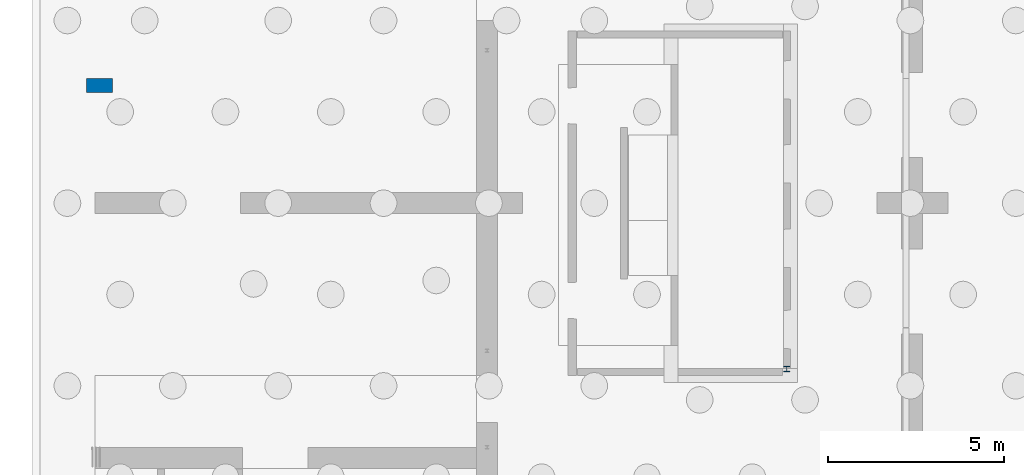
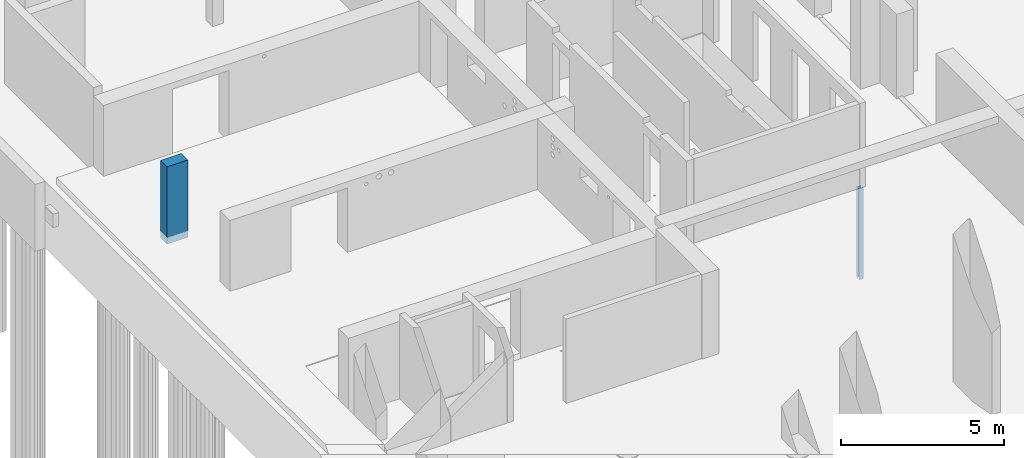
# One storey, part 10 of 26: 2 columns.
"""IFC2X3 building model written with IfcOpenShell, lengths in millimetres."""

import ifcopenshell
import ifcopenshell.guid

model = None  # the IFC model being written
_history = None  # IfcOwnerHistory: only IFC2X3 demands one
_inside = {}  # id of a spatial element -> (the spatial element, [elements in it])
_under = {}  # id of a project, library or spatial element -> (it, [spatial elements below it])
_declared = {}  # id of a project -> (the project, [libraries it declares])
_typed = {}  # id of a type object -> (the type object, [elements of that type])
_made_of = {}  # id of a material, layer set ... -> (it, [elements and type objects made of it])


def new_model(schema):
    """Start an empty IFC model of exactly this schema.

    Asked for "IFC4X3", IfcOpenShell would pick the latest addendum, in which some entities
    have other attributes; the version numbers below select the first issue.
    IFC2X3 requires an IfcOwnerHistory on every rooted entity: one is made here for all.
    """
    global model, _history
    if schema == "IFC4X3":
        model = ifcopenshell.file(schema_version=(4, 3, 0, 0))
    else:
        model = ifcopenshell.file(schema=schema)
    _inside.clear()
    _under.clear()
    _declared.clear()
    _typed.clear()
    _made_of.clear()
    _history = None
    if model.schema == "IFC2X3":
        org = make("IfcOrganization", Name="unknown")
        user = make(
            "IfcPersonAndOrganization",
            ThePerson=make("IfcPerson", FamilyName="unknown"),
            TheOrganization=org,
        )
        app = make(
            "IfcApplication",
            ApplicationDeveloper=org,
            Version="unknown",
            ApplicationFullName="unknown",
            ApplicationIdentifier="unknown",
        )
        _history = make(
            "IfcOwnerHistory",
            OwningUser=user,
            OwningApplication=app,
            ChangeAction="ADDED",
            CreationDate=0,
        )
    return model


def make(cls, **values):
    """One entity of the class cls with the attributes given. An attribute that is None is left unset."""
    return model.create_entity(
        cls, **{name: value for name, value in values.items() if value is not None}
    )


def entity(cls, *values):
    """Any entity or typed value of the class cls, its attributes in the order of the schema. None: left unset."""
    e = model.create_entity(cls)
    for i, value in enumerate(values):
        if value is not None:
            e[i] = value
    return e


def rooted(cls, **values):
    """An entity with a GlobalId (a new one), such as an element, a storey or a relation."""
    return make(cls, GlobalId=ifcopenshell.guid.new(), OwnerHistory=_history, **values)


def si_unit(unit_type, name, prefix=None):
    """IfcSIUnit, for example si_unit("LENGTHUNIT", "METRE", prefix="MILLI")."""
    return make("IfcSIUnit", UnitType=unit_type, Prefix=prefix, Name=name)


def converted_unit(unit_type, name, factor, base, dimensions=None, offset=None):
    """IfcConversionBasedUnit, such as the inch: factor (a typed value) times the base unit."""
    return make(
        "IfcConversionBasedUnit"
        if offset is None
        else "IfcConversionBasedUnitWithOffset",
        ConversionOffset=offset,
        Dimensions=None
        if dimensions is None
        else entity("IfcDimensionalExponents", *dimensions),
        UnitType=unit_type,
        Name=name,
        ConversionFactor=make(
            "IfcMeasureWithUnit", ValueComponent=factor, UnitComponent=base
        ),
    )


def derived_unit(unit_type, elements):
    """IfcDerivedUnit: a product of units, each with its exponent."""
    return make(
        "IfcDerivedUnit",
        Elements=[
            make("IfcDerivedUnitElement", Unit=unit, Exponent=power)
            for unit, power in elements
        ],
        UnitType=unit_type,
    )


def assignment(units):
    """IfcUnitAssignment: the units of a project."""
    return None if units is None else make("IfcUnitAssignment", Units=units)


def point(xyz):
    """IfcCartesianPoint."""
    return None if xyz is None else make("IfcCartesianPoint", Coordinates=xyz)


def direction(xyz):
    """IfcDirection."""
    return None if xyz is None else make("IfcDirection", DirectionRatios=xyz)


def frame(location, z_axis=None, x_axis=None):
    """IfcAxis2Placement3D, a coordinate frame: its origin and axes. An axis left out is left unset."""
    return make(
        "IfcAxis2Placement3D",
        Location=point(location),
        Axis=direction(z_axis),
        RefDirection=direction(x_axis),
    )


def frame_2d(location, x_axis=None):
    """IfcAxis2Placement2D, a coordinate frame in the plane: its origin and x axis."""
    return make(
        "IfcAxis2Placement2D", Location=point(location), RefDirection=direction(x_axis)
    )


def origin():
    """The frame at (0, 0, 0) with its axes left unset."""
    return frame((0.0, 0.0, 0.0))


def place(relative_to, where):
    """IfcLocalPlacement: puts the frame where relative to a parent placement (None: the world)."""
    return make(
        "IfcLocalPlacement", PlacementRelTo=relative_to, RelativePlacement=where
    )


def context(
    kind, dimensions, precision=None, world=None, true_north=None, identifier=None
):
    """IfcGeometricRepresentationContext, for example the 3D "Model" context."""
    return make(
        "IfcGeometricRepresentationContext",
        ContextIdentifier=identifier,
        ContextType=kind,
        CoordinateSpaceDimension=dimensions,
        Precision=precision,
        WorldCoordinateSystem=world,
        TrueNorth=true_north,
    )


def subcontext(parent, identifier, kind, view, scale=None):
    """IfcGeometricRepresentationSubContext, for example "Body" below "Model"."""
    return make(
        "IfcGeometricRepresentationSubContext",
        ContextIdentifier=identifier,
        ContextType=kind,
        ParentContext=parent,
        TargetScale=scale,
        TargetView=view,
    )


def project(units=None, contexts=None):
    """IfcProject with its units and contexts."""
    return rooted(
        "IfcProject",
        Name="project",
        RepresentationContexts=contexts,
        UnitsInContext=assignment(units),
    )


def spatial(cls, under=None, at=None, **own):
    """A site, building, storey or space (cls), placed at a placement, below another one or the project."""
    s = rooted(cls, ObjectPlacement=at, **own)
    if under is not None:
        _under.setdefault(under.id(), (under, []))[1].append(s)
    return s


def polyline(points):
    """IfcPolyline through the points."""
    return make("IfcPolyline", Points=[point(p) for p in points])


def circle_curve(where, radius):
    """IfcCircle in the frame where."""
    return make("IfcCircle", Position=where, Radius=radius)


def parameter(value):
    """IfcParameterValue: where a trimmed curve begins or ends, as a parameter of its basis curve."""
    return model.create_entity("IfcParameterValue", value)


def trimmed(basis, trim1, trim2, sense, master):
    """IfcTrimmedCurve: the piece of a basis curve between two trims."""
    return make(
        "IfcTrimmedCurve",
        BasisCurve=basis,
        Trim1=trim1,
        Trim2=trim2,
        SenseAgreement=sense,
        MasterRepresentation=master,
    )


def segment(curve, same_sense, transition):
    """IfcCompositeCurveSegment."""
    return make(
        "IfcCompositeCurveSegment",
        Transition=transition,
        SameSense=same_sense,
        ParentCurve=curve,
    )


def composite_curve(segments, self_intersect=None):
    """IfcCompositeCurve: segments joined end to end."""
    return make("IfcCompositeCurve", Segments=segments, SelfIntersect=self_intersect)


def profile(cls, at=None, kind="AREA", **sizes):
    """A parametric profile (cls). Its sizes go by their IFC names, for example OverallWidth=200.0."""
    return make(cls, ProfileType=kind, Position=at, **sizes)


def rectangle(**sizes):
    """IfcRectangleProfileDef."""
    return profile("IfcRectangleProfileDef", **sizes)


def outline(outer, holes=None, kind="AREA"):
    """IfcArbitraryClosedProfileDef: a profile drawn as a closed curve; with holes, ...WithVoids."""
    if holes is None:
        return make("IfcArbitraryClosedProfileDef", ProfileType=kind, OuterCurve=outer)
    return make(
        "IfcArbitraryProfileDefWithVoids",
        ProfileType=kind,
        OuterCurve=outer,
        InnerCurves=holes,
    )


def extrude(swept, where, along, depth):
    """IfcExtrudedAreaSolid: the profile swept, set in the frame where, extruded along a direction by depth."""
    return make(
        "IfcExtrudedAreaSolid",
        SweptArea=swept,
        Position=where,
        ExtrudedDirection=direction(along),
        Depth=depth,
    )


def shape(context_of_items, identifier, shape_type, items):
    """IfcShapeRepresentation: the items that make up one representation, for example the "Body"."""
    return make(
        "IfcShapeRepresentation",
        ContextOfItems=context_of_items,
        RepresentationIdentifier=identifier,
        RepresentationType=shape_type,
        Items=items,
    )


def source(mapping_origin, context_of_items, identifier, shape_type, items):
    """IfcRepresentationMap: a shape defined once, which mapped items show again and again."""
    return make(
        "IfcRepresentationMap",
        MappingOrigin=mapping_origin,
        MappedRepresentation=shape(context_of_items, identifier, shape_type, items),
    )


def transform(
    local_origin,
    x_axis=None,
    y_axis=None,
    z_axis=None,
    scale=None,
    scale2=None,
    scale3=None,
    uniform=True,
):
    """IfcCartesianTransformationOperator3D, or its non-uniform kind. x_axis, y_axis, z_axis: its Axis1, 2, 3."""
    if uniform:
        return make(
            "IfcCartesianTransformationOperator3D",
            Axis1=direction(x_axis),
            Axis2=direction(y_axis),
            LocalOrigin=point(local_origin),
            Scale=scale,
            Axis3=direction(z_axis),
        )
    return make(
        "IfcCartesianTransformationOperator3DnonUniform",
        Axis1=direction(x_axis),
        Axis2=direction(y_axis),
        LocalOrigin=point(local_origin),
        Scale=scale,
        Axis3=direction(z_axis),
        Scale2=scale2,
        Scale3=scale3,
    )


def mapped(mapping_source, mapping_target):
    """IfcMappedItem: shows the shape of a source again, moved by a transform."""
    return make(
        "IfcMappedItem", MappingSource=mapping_source, MappingTarget=mapping_target
    )


def material(Name=None, Category=None):
    """IfcMaterial."""
    return make("IfcMaterial", Name=Name, Category=Category)


def made_of(thing, what):
    """Note that an element or type object is made of a material, layer set ...; save() writes the relation."""
    if what is not None:
        _made_of.setdefault(what.id(), (what, []))[1].append(thing)
    return thing


def type_object(cls, material=None, **own):
    """A type object (cls), such as IfcWallType, which elements share."""
    return made_of(rooted(cls, **own), material)


def type_shapes(of_type, sources):
    """Give a type object the sources (RepresentationMaps) that its elements show as mapped items."""
    of_type.RepresentationMaps = sources


def element(
    cls,
    number,
    at=None,
    inside=None,
    cuts=None,
    type_object=None,
    material=None,
    context=None,
    identifier="Body",
    shape_type=None,
    held_by="IfcProductDefinitionShape",
    body=None,
    shapes=None,
    **own,
):
    """One element of the class cls, such as IfcWall. Its Tag is "e" and its number.

    at: its placement. inside: the storey or other place that contains it. cuts: it is an
    opening in that element (IfcRelVoidsElement). A single representation is given by context,
    identifier, shape_type and body (its items); several are given by shapes. held_by: the class
    of the entity that holds the representations. save() writes the other relations.
    """
    e = rooted(cls, Tag="e%d" % number, ObjectPlacement=at, **own)
    if body is not None:
        shapes = [shape(context, identifier, shape_type, body)]
    if shapes is not None:
        e.Representation = make(held_by, Representations=shapes)
    if inside is not None:
        _inside.setdefault(inside.id(), (inside, []))[1].append(e)
    if cuts is not None:
        rooted(
            "IfcRelVoidsElement", RelatingBuildingElement=cuts, RelatedOpeningElement=e
        )
    if type_object is not None:
        _typed.setdefault(type_object.id(), (type_object, []))[1].append(e)
    return made_of(e, material)


def aggregate(whole, parts):
    """IfcRelAggregates: a whole, such as a stair, and the parts it consists of."""
    return rooted("IfcRelAggregates", RelatingObject=whole, RelatedObjects=parts)


def save(model, path):
    """Write the relations noted so far, then the file.

    IfcRelAggregates (storeys below a building ...), IfcRelContainedInSpatialStructure (elements
    in a storey), IfcRelDefinesByType, IfcRelAssociatesMaterial and IfcRelDeclares: one each for
    every whole, place, type object, material and project.
    """
    for whole, parts in _under.values():
        aggregate(whole, parts)
    for where, things in _inside.values():
        rooted(
            "IfcRelContainedInSpatialStructure",
            RelatedElements=things,
            RelatingStructure=where,
        )
    for kind, things in _typed.values():
        rooted("IfcRelDefinesByType", RelatedObjects=things, RelatingType=kind)
    for what, things in _made_of.values():
        rooted("IfcRelAssociatesMaterial", RelatedObjects=things, RelatingMaterial=what)
    for by, libraries in _declared.values():
        rooted("IfcRelDeclares", RelatingContext=by, RelatedDefinitions=libraries)
    model.write(path)


model = new_model("IFC2X3")

# Units and contexts
model_context = context("Model", 3, precision=0.01, world=origin(), true_north=direction((6.12303176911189e-17, 1.0)))
body_context = subcontext(model_context, "Body", "Model", "MODEL_VIEW")
ifc_project = project(units=[si_unit("LENGTHUNIT", "METRE", prefix="MILLI"), si_unit("AREAUNIT", "SQUARE_METRE"), si_unit("VOLUMEUNIT", "CUBIC_METRE"), converted_unit("PLANEANGLEUNIT", "DEGREE", entity("IfcRatioMeasure", 0.0174532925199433), si_unit("PLANEANGLEUNIT", "RADIAN"), dimensions=[0, 0, 0, 0, 0, 0, 0]), si_unit("MASSUNIT", "GRAM", prefix="KILO"), derived_unit("MASSDENSITYUNIT", [(si_unit("MASSUNIT", "GRAM", prefix="KILO"), 1), (si_unit("LENGTHUNIT", "METRE"), -3)]), si_unit("TIMEUNIT", "SECOND"), si_unit("FREQUENCYUNIT", "HERTZ"), si_unit("THERMODYNAMICTEMPERATUREUNIT", "DEGREE_CELSIUS"), derived_unit("THERMALTRANSMITTANCEUNIT", [(si_unit("MASSUNIT", "GRAM", prefix="KILO"), 1), (si_unit("THERMODYNAMICTEMPERATUREUNIT", "KELVIN"), -1), (si_unit("TIMEUNIT", "SECOND"), -3)]), derived_unit("VOLUMETRICFLOWRATEUNIT", [(si_unit("LENGTHUNIT", "METRE"), 3), (si_unit("TIMEUNIT", "SECOND"), -1)]), si_unit("ELECTRICCURRENTUNIT", "AMPERE"), si_unit("ELECTRICVOLTAGEUNIT", "VOLT"), si_unit("POWERUNIT", "WATT"), si_unit("FORCEUNIT", "NEWTON", prefix="KILO"), si_unit("ILLUMINANCEUNIT", "LUX"), si_unit("LUMINOUSFLUXUNIT", "LUMEN"), si_unit("LUMINOUSINTENSITYUNIT", "CANDELA"), derived_unit("USERDEFINED", [(si_unit("MASSUNIT", "GRAM", prefix="KILO"), -1), (si_unit("LENGTHUNIT", "METRE"), -2), (si_unit("TIMEUNIT", "SECOND"), 3), (si_unit("LUMINOUSFLUXUNIT", "LUMEN"), 1)]), derived_unit("LINEARVELOCITYUNIT", [(si_unit("LENGTHUNIT", "METRE"), 1), (si_unit("TIMEUNIT", "SECOND"), -1)]), si_unit("PRESSUREUNIT", "PASCAL"), derived_unit("USERDEFINED", [(si_unit("LENGTHUNIT", "METRE"), -2), (si_unit("MASSUNIT", "GRAM", prefix="KILO"), 1), (si_unit("TIMEUNIT", "SECOND"), -2)])], contexts=[model_context])

# Site, building, storey
site_placement = place(None, origin())
site = spatial("IfcSite", under=ifc_project, at=site_placement, Name="Default", CompositionType="ELEMENT")
building_placement = place(site_placement, origin())
building = spatial("IfcBuilding", under=site, at=building_placement, Name="niet gebruiken", CompositionType="ELEMENT")
storey_placement = place(building_placement, origin())
storey = spatial("IfcBuildingStorey", under=building, at=storey_placement, Name="00 begane grond", CompositionType="ELEMENT", Elevation=0.0)

# Columns
ifc_material_1 = material(Name="NLRS_f2_beton ihwg")
column_type_1 = type_object("IfcColumnType", Name="400x730", PredefinedType="COLUMN", material=ifc_material_1)
shared_shape_1 = source(origin(), body_context, "Body", "SweptSolid", [
    extrude(rectangle(XDim=400.000000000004, YDim=730.000000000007, at=frame_2d((2.1600499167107e-12, 0.0), x_axis=(1.0, 0.0))), frame((124665.0, 20846.0, -250.0), z_axis=(0.0, 0.0, 1.0), x_axis=(0.0, -1.0, 0.0)), (0.0, 0.0, 1.0), 2890.0),
])
type_shapes(column_type_1, [shared_shape_1])
column_1_placement = place(storey_placement, origin())
element("IfcColumn", 1, at=column_1_placement, inside=storey, type_object=column_type_1, material=ifc_material_1, Name="NLRS_28.11_SCO_TLB_beton kolom ihwg_gen:400x730", ObjectType="400x730", context=body_context, shape_type="MappedRepresentation", body=[
    mapped(shared_shape_1, transform((0.0, 0.0, 0.0), scale=1.0)),
])
ifc_material_2 = material(Name="NLRS_h2_staal")
column_type_2 = type_object("IfcColumnType", Name="kolom HEA 160", PredefinedType="COLUMN", material=ifc_material_2)
shared_shape_2 = source(origin(), body_context, "Body", "SweptSolid", [
    extrude(outline(composite_curve([segment(polyline([(67.0, -80.0), (76.0, -80.0)]), True, "CONTINUOUS"), segment(polyline([(76.0, -80.0), (76.0, 80.0)]), True, "CONTINUOUS"), segment(polyline([(76.0, 80.0), (67.0, 80.0)]), True, "CONTINUOUS"), segment(polyline([(67.0, 80.0), (67.0, 18.0)]), True, "CONTINUOUS"), segment(trimmed(circle_curve(frame_2d((52.0, 18.0), x_axis=(1.0, 0.0)), 15.0), [parameter(270.0)], [parameter(0.0)], True, "PARAMETER"), False, "CONTINUOUS"), segment(polyline([(52.0, 3.0), (-52.0, 3.0)]), True, "CONTINUOUS"), segment(trimmed(circle_curve(frame_2d((-52.0, 18.0), x_axis=(0.0, -1.0)), 15.0), [parameter(270.0)], [parameter(0.0)], True, "PARAMETER"), False, "CONTINUOUS"), segment(polyline([(-67.0, 18.0), (-67.0, 80.0)]), True, "CONTINUOUS"), segment(polyline([(-67.0, 80.0), (-76.0, 80.0)]), True, "CONTINUOUS"), segment(polyline([(-76.0, 80.0), (-76.0, -80.0)]), True, "CONTINUOUS"), segment(polyline([(-76.0, -80.0), (-67.0, -80.0)]), True, "CONTINUOUS"), segment(polyline([(-67.0, -80.0), (-67.0, -18.0)]), True, "CONTINUOUS"), segment(trimmed(circle_curve(frame_2d((-52.0, -18.0), x_axis=(-1.0, 0.0)), 15.0), [parameter(270.0)], [parameter(0.0)], True, "PARAMETER"), False, "CONTINUOUS"), segment(polyline([(-52.0, -3.0), (52.0, -3.0)]), True, "CONTINUOUS"), segment(trimmed(circle_curve(frame_2d((52.0, -18.0), x_axis=(0.0, 1.0)), 15.0), [parameter(270.0)], [parameter(0.0)], True, "PARAMETER"), False, "CONTINUOUS"), segment(polyline([(67.0, -18.0), (67.0, -80.0)]), True, "CONTINUOUS")], self_intersect=False)), frame((0.0, 0.0, -3720.0), z_axis=(0.0, 0.0, 1.0), x_axis=(0.0, -1.0, 0.0)), (0.0, 0.0, 1.0), 3400.0),
])
type_shapes(column_type_2, [shared_shape_2])
column_2_placement = place(storey_placement, frame((144230.0, 12776.0, 0.0)))
element("IfcColumn", 2, at=column_2_placement, inside=storey, type_object=column_type_2, material=ifc_material_2, Name="NLRS_28.11_SCO_TLB_stalen kolom HEA_gen:kolom HEA 160", ObjectType="kolom HEA 160", context=body_context, shape_type="MappedRepresentation", body=[
    mapped(shared_shape_2, transform((0.0, 0.0, 0.0), scale=1.0)),
])

save(model, "model.ifc")
